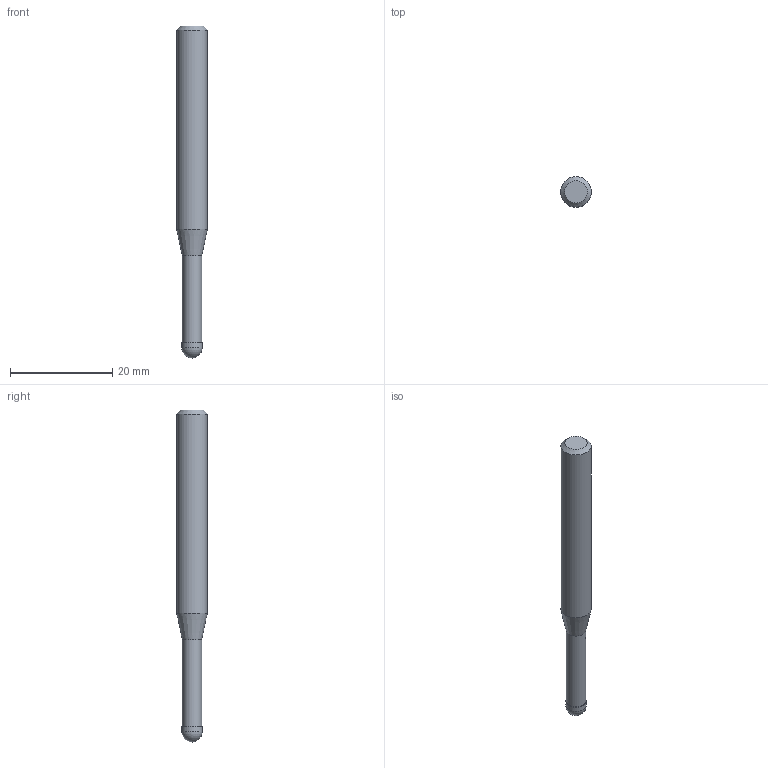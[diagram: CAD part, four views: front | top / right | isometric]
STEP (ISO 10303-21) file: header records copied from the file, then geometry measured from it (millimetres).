
FILE_DESCRIPTION((''),'2;1');
FILE_NAME('C:\Users\nsx150\AppData\Local\Temp\Mastercam 2021\3SYKECWX22\TEMP.step','2021-04-22T10:05:27',(''),(''),'STEP Write','Mastercam 2021 ... CNC Software, Inc.','');
FILE_SCHEMA(('AUTOMOTIVE_DESIGN'));
Length unit declared in the file: millimetre
Products named in the file (1): None
Bounding box: 6 x 6 x 65 mm (x, y, z)
Volume: 1441.9 mm3; surface area: 1115.3 mm2
Topology: 2 solids, 2 shells, 9 faces, 14 edges, 8 vertices
Faces by surface type: plane 3, cylinder 3, cone 2, sphere 1
Full cylindrical faces by diameter (mm): 3.8 x1, 4 x1, 6 x1
Entity records: 211 total; most frequent: DIRECTION 36, CARTESIAN_POINT 25, AXIS2_PLACEMENT_3D 18, ORIENTED_EDGE 14, EDGE_LOOP 14, STYLED_ITEM 12, ADVANCED_FACE 9, FACE_BOUND 8
